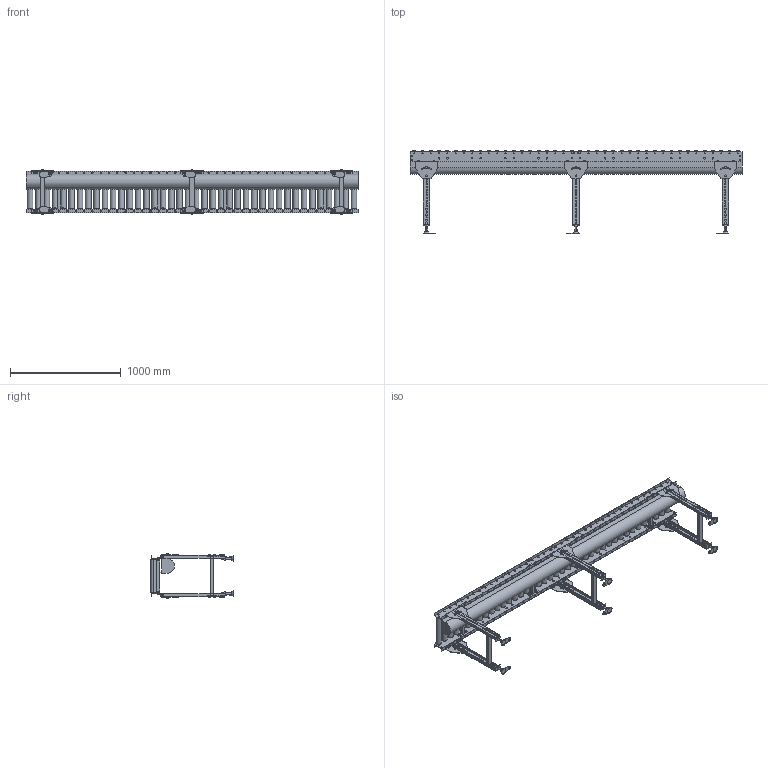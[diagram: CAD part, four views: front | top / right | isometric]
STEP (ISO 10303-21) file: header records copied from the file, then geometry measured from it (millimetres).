
FILE_DESCRIPTION (( 'STEP AP214' ), '1' );
FILE_NAME ('MCD50-ストレート-75P-315.STEP', '2022-08-01T02:09:52', ( '' ), ( '' ), 'SwSTEP 2.0', 'SolidWorks 2017', '' );
FILE_SCHEMA (( 'AUTOMOTIVE_DESIGN' ));
Length unit declared in the file: millimetre
Products named in the file (1): MCD50-ストレート-75P-315
Bounding box: 3000 x 750 x 399.4 mm (x, y, z)
Volume: 72976245.4 mm3; surface area: 6737720.6 mm2
Topology: 28 solids, 74 shells, 4058 faces, 11056 edges, 7024 vertices
Faces by surface type: plane 2573, cylinder 1473, cone 12
Entity records: 175013 total; most frequent: DIRECTION 23112, CARTESIAN_POINT 22535, ORIENTED_EDGE 22112, EDGE_CURVE 11056, AXIS2_PLACEMENT_3D 8009, VECTOR 7094, LINE 7094, VERTEX_POINT 7024
